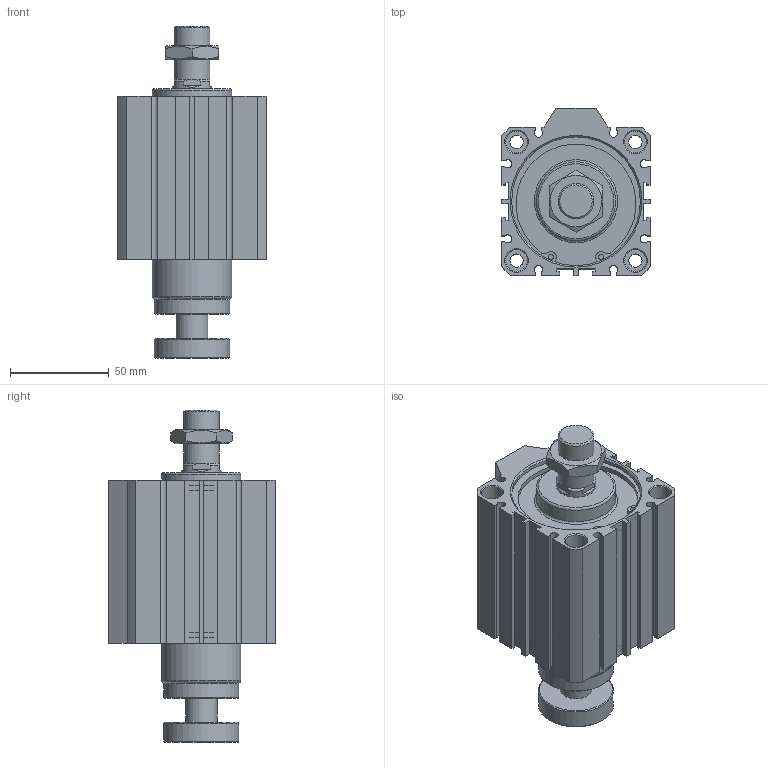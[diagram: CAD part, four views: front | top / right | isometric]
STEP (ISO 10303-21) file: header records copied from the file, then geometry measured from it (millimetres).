
FILE_DESCRIPTION((''),'2;1');
FILE_NAME('I:\3D電子目錄\氣缸\JDAR\JDAR-BS\JDAR63-BS\JDAR63x40-BS.stp','2007-05-05T14:38:26',('662F206'),(''),'Autodesk Inventor 11','Autodesk Inventor 11','');
FILE_SCHEMA(('AUTOMOTIVE_DESIGN { 1 0 10303 214 1 1 1 1 }'));
Length unit declared in the file: millimetre
Products named in the file (3): JDAR63-BS; R 形環 65
Assembly tree (3 placements, depth 2):
  JDAR63-BS
    JDAR63-BS
    R 形環 65  x2
Bounding box: 75 x 84.5 x 167.8 mm (x, y, z)
Volume: 482411.4 mm3; surface area: 75240.8 mm2
Topology: 3 solids, 3 shells, 203 faces, 490 edges, 319 vertices
Faces by surface type: plane 118, cylinder 56, cone 25, bspline 2, torus 2
Full cylindrical faces by diameter (mm): 2.7 x4, 3 x2, 6.8 x4, 11 x8, 16 x1, 18 x2, 20 x1, 38 x2, 40 x2, 65 x4, 68 x2
Entity records: 5389 total; most frequent: CARTESIAN_POINT 1017, DIRECTION 902, ORIENTED_EDGE 798, EDGE_CURVE 399, AXIS2_PLACEMENT_3D 328, VERTEX_POINT 293, EDGE_LOOP 284, VECTOR 246
